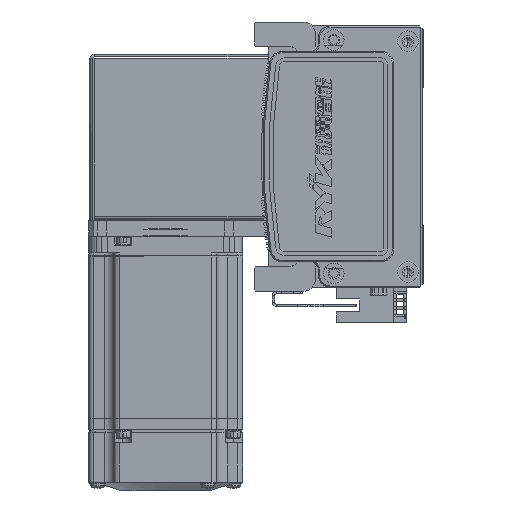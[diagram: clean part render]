
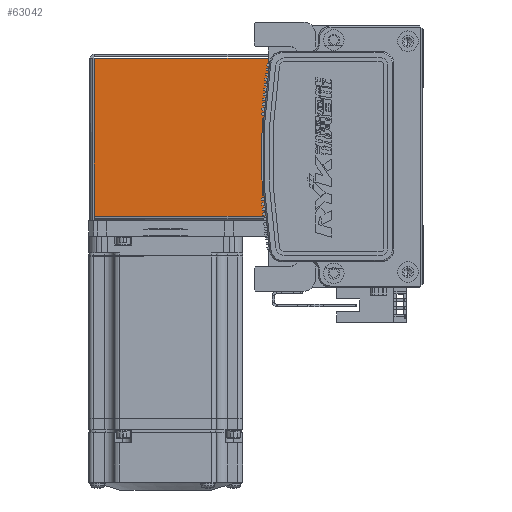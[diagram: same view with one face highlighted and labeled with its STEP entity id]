
A CAD part, left-side view. The second image highlights one B-rep face of the part: STEP entity #63042.
In plain terms, the highlighted planar face has unit normal (-1, 0, 0) as drawn and (0, 0, 1) by its records, which use the part's own axes.
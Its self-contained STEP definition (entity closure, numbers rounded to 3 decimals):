
#1046 = ORIENTED_EDGE ( 'NONE', *, *, #15695, .T. ) ;
#1741 = PLANE ( 'NONE',  #44256 ) ;
#2345 = CARTESIAN_POINT ( 'NONE',  ( -30.793, 0.737, 35. ) ) ;
#3716 = CARTESIAN_POINT ( 'NONE',  ( 30.763, 0.737, 35. ) ) ;
#7866 = EDGE_CURVE ( 'NONE', #16840, #42040, #35600, .T. ) ;
#12994 = VECTOR ( 'NONE', #58229, 1000. ) ;
#14645 = VECTOR ( 'NONE', #24621, 1000. ) ;
#15695 = EDGE_CURVE ( 'NONE', #36428, #23228, #50331, .T. ) ;
#16840 = VERTEX_POINT ( 'NONE', #62604 ) ;
#18430 = VECTOR ( 'NONE', #26590, 1000. ) ;
#19274 = CARTESIAN_POINT ( 'NONE',  ( -30.793, 0., 35. ) ) ;
#20864 = VECTOR ( 'NONE', #60629, 1000. ) ;
#23228 = VERTEX_POINT ( 'NONE', #47857 ) ;
#24389 = DIRECTION ( 'NONE',  ( 0., 0., -1. ) ) ;
#24621 = DIRECTION ( 'NONE',  ( -1., 0., 0. ) ) ;
#26590 = DIRECTION ( 'NONE',  ( 0., 1., 0. ) ) ;
#27193 = CARTESIAN_POINT ( 'NONE',  ( -32.5, 0.737, 35. ) ) ;
#28963 = EDGE_CURVE ( 'NONE', #42040, #23228, #67936, .T. ) ;
#29324 = ORIENTED_EDGE ( 'NONE', *, *, #28963, .F. ) ;
#33224 = LINE ( 'NONE', #3716, #18430 ) ;
#35600 = LINE ( 'NONE', #27193, #20864 ) ;
#36428 = VERTEX_POINT ( 'NONE', #52749 ) ;
#38537 = ORIENTED_EDGE ( 'NONE', *, *, #7866, .F. ) ;
#42040 = VERTEX_POINT ( 'NONE', #2345 ) ;
#42665 = ORIENTED_EDGE ( 'NONE', *, *, #56030, .T. ) ;
#44256 = AXIS2_PLACEMENT_3D ( 'NONE', #51707, #24389, #68274 ) ;
#47857 = CARTESIAN_POINT ( 'NONE',  ( -30.793, 68.5, 35. ) ) ;
#50331 = LINE ( 'NONE', #52395, #14645 ) ;
#51707 = CARTESIAN_POINT ( 'NONE',  ( 0., 0., 35. ) ) ;
#52395 = CARTESIAN_POINT ( 'NONE',  ( 0., 68.5, 35. ) ) ;
#52749 = CARTESIAN_POINT ( 'NONE',  ( 30.763, 68.5, 35. ) ) ;
#54064 = EDGE_LOOP ( 'NONE', ( #42665, #1046, #29324, #38537 ) ) ;
#56030 = EDGE_CURVE ( 'NONE', #16840, #36428, #33224, .T. ) ;
#57380 = FACE_OUTER_BOUND ( 'NONE', #54064, .T. ) ;
#58229 = DIRECTION ( 'NONE',  ( 0., 1., 0. ) ) ;
#60629 = DIRECTION ( 'NONE',  ( -1., 0., 0. ) ) ;
#62604 = CARTESIAN_POINT ( 'NONE',  ( 30.763, 0.737, 35. ) ) ;
#63042 = ADVANCED_FACE ( 'NONE', ( #57380 ), #1741, .F. ) ;
#67936 = LINE ( 'NONE', #19274, #12994 ) ;
#68274 = DIRECTION ( 'NONE',  ( -1., 0., 0. ) ) ;
